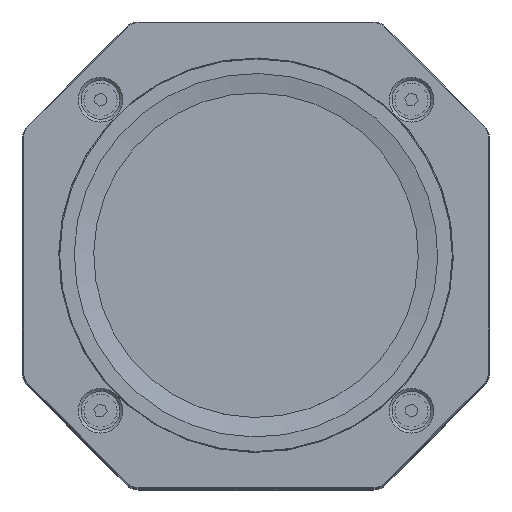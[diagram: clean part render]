
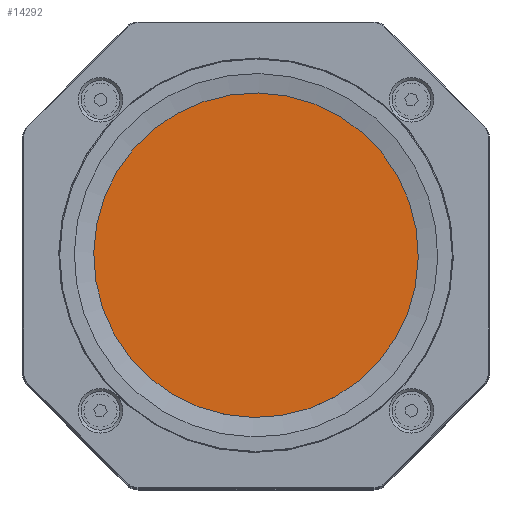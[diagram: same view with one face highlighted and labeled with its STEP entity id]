
A CAD part, top view. The second image highlights one B-rep face of the part: STEP entity #14292.
In plain terms, the highlighted planar face has unit normal (0, 0, 1) as drawn and (0, 1, 0) by its records, which use the part's own axes.
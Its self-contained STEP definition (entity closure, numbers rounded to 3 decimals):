
#1577=FACE_OUTER_BOUND('',#2437,.T.);
#2437=EDGE_LOOP('',(#12848));
#5673=CIRCLE('',#16159,42.75);
#6940=VERTEX_POINT('',#25793);
#8933=EDGE_CURVE('',#6940,#6940,#5673,.T.);
#12848=ORIENTED_EDGE('',*,*,#8933,.T.);
#13569=PLANE('',#16161);
#14292=ADVANCED_FACE('',(#1577),#13569,.T.);
#16159=AXIS2_PLACEMENT_3D('',#25794,#20262,#20263);
#16161=AXIS2_PLACEMENT_3D('',#25798,#20267,#20268);
#20262=DIRECTION('center_axis',(0.,1.,0.));
#20263=DIRECTION('ref_axis',(-1.,0.,0.));
#20267=DIRECTION('center_axis',(0.,1.,0.));
#20268=DIRECTION('ref_axis',(0.,0.,1.));
#25793=CARTESIAN_POINT('',(42.75,3.5,0.));
#25794=CARTESIAN_POINT('Origin',(0.,3.5,0.));
#25798=CARTESIAN_POINT('Origin',(0.,3.5,0.));
